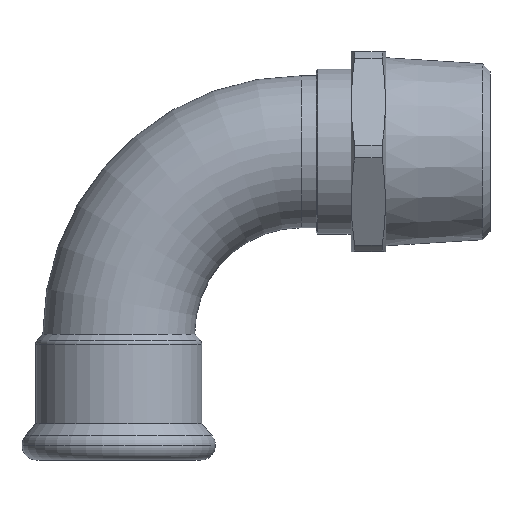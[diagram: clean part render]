
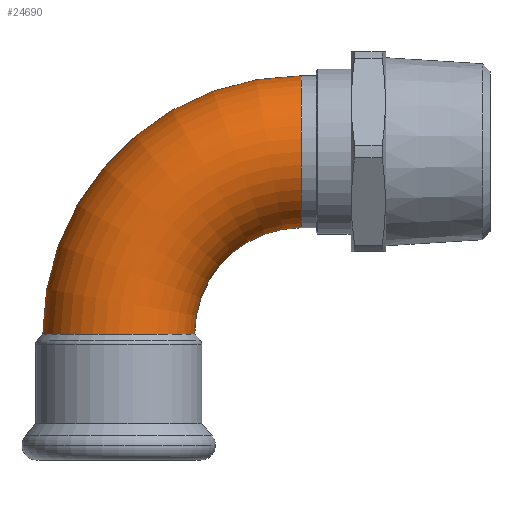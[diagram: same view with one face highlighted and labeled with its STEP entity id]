
A CAD part, top view. The second image highlights one B-rep face of the part: STEP entity #24690.
In plain terms, the highlighted toroidal (fillet/blend) face has major radius 42 mm and minor radius 17.5 mm.
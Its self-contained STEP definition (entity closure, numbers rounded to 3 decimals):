
#17200=CARTESIAN_POINT('',(-95.071,-473.955,
0.));
#17210=DIRECTION('',(0.,0.,1.));
#17220=DIRECTION('',(0.,1.,0.));
#17230=AXIS2_PLACEMENT_3D('',#17200,#17210,#17220);
#17240=TOROIDAL_SURFACE('',#17230,42.,17.5);
#17250=CARTESIAN_POINT('',(-95.071,-473.955,
0.));
#17260=DIRECTION('',(0.,0.,1.));
#17270=DIRECTION('',(0.,1.,0.));
#17280=AXIS2_PLACEMENT_3D('',#17250,#17260,#17270);
#17290=CIRCLE('',#17280,24.5);
#17300=CARTESIAN_POINT('',(-95.071,-449.455,
0.));
#17310=VERTEX_POINT('',#17300);
#17320=CARTESIAN_POINT('',(-119.571,-473.955,
0.));
#17330=VERTEX_POINT('',#17320);
#17340=EDGE_CURVE('',#17310,#17330,#17290,.T.);
#17410=CARTESIAN_POINT('',(-95.071,-414.455,
0.));
#17420=VERTEX_POINT('',#17410);
#17450=CARTESIAN_POINT('',(-95.071,-473.955,
0.));
#17460=DIRECTION('',(0.,0.,1.));
#17470=DIRECTION('',(0.,1.,0.));
#17480=AXIS2_PLACEMENT_3D('',#17450,#17460,#17470);
#17490=CIRCLE('',#17480,59.5);
#17500=CARTESIAN_POINT('',(-154.571,-473.955,
0.));
#17510=VERTEX_POINT('',#17500);
#17520=EDGE_CURVE('',#17420,#17510,#17490,.T.);
#17540=CARTESIAN_POINT('',(-137.071,-473.955,
0.));
#17550=DIRECTION('',(0.,-1.,0.));
#17560=DIRECTION('',(1.,0.,0.));
#17570=AXIS2_PLACEMENT_3D('',#17540,#17550,#17560);
#17580=CIRCLE('',#17570,17.5);
#19270=EDGE_CURVE('',#17330,#17510,#17580,.T.);
#24570=ORIENTED_EDGE('',*,*,#19270,.F.);
#24580=ORIENTED_EDGE('',*,*,#17520,.T.);
#24590=CARTESIAN_POINT('',(-95.071,-431.955,
0.));
#24600=DIRECTION('',(-1.,0.,0.));
#24610=DIRECTION('',(0.,-1.,0.));
#24620=AXIS2_PLACEMENT_3D('',#24590,#24600,#24610);
#24630=CIRCLE('',#24620,17.5);
#24640=EDGE_CURVE('',#17310,#17420,#24630,.T.);
#24650=ORIENTED_EDGE('',*,*,#24640,.T.);
#24660=ORIENTED_EDGE('',*,*,#17340,.F.);
#24670=EDGE_LOOP('',(#24660,#24650,#24580,#24570));
#24680=FACE_OUTER_BOUND('',#24670,.T.);
#24690=ADVANCED_FACE('',(#24680),#17240,.T.);
